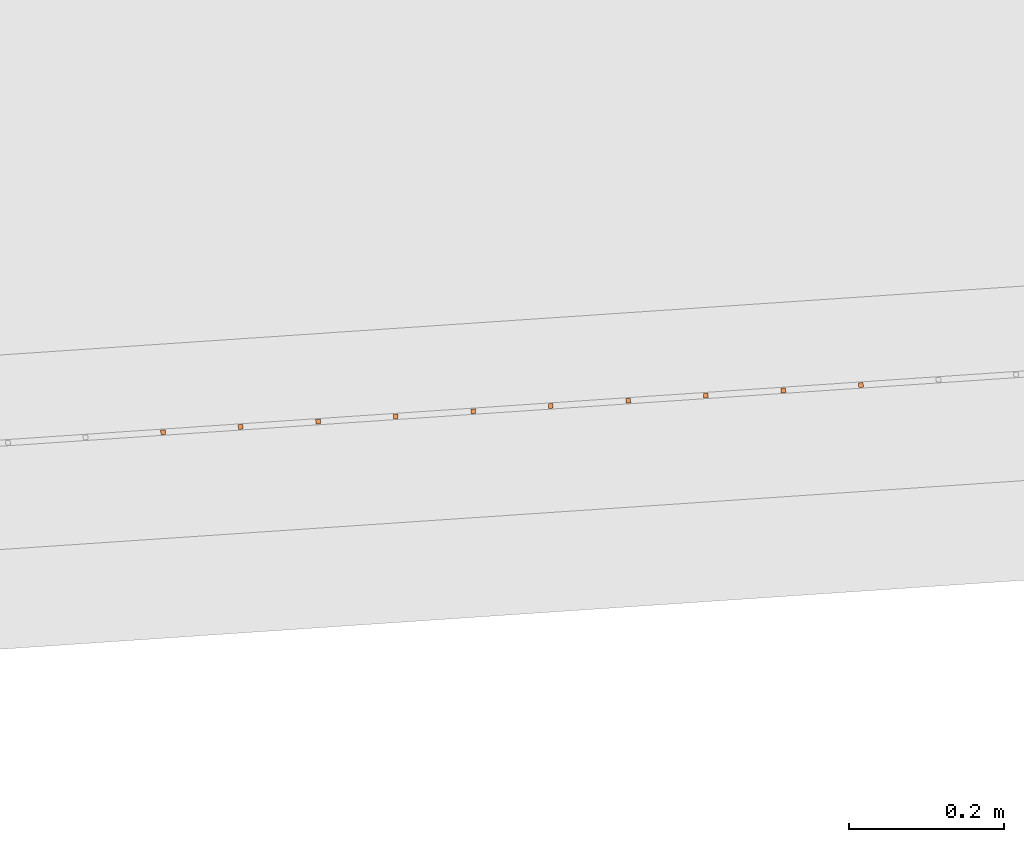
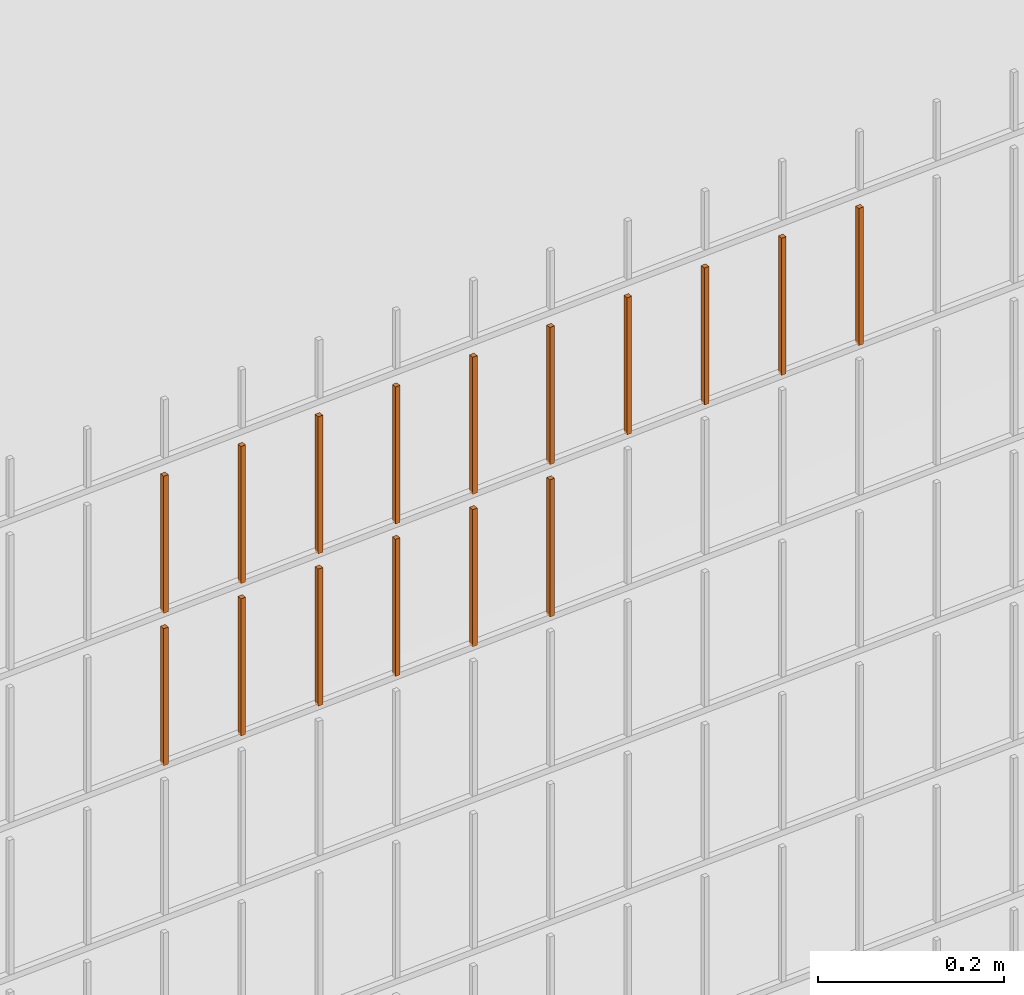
# One storey, part 159 of 1809: 16 proxies, 1 element without a shape of its own.
"""IFC2X3 building model written with IfcOpenShell, lengths in millimetres."""

import ifcopenshell
import ifcopenshell.guid

model = None  # the IFC model being written
_history = None  # IfcOwnerHistory: only IFC2X3 demands one
_inside = {}  # id of a spatial element -> (the spatial element, [elements in it])
_under = {}  # id of a project, library or spatial element -> (it, [spatial elements below it])
_declared = {}  # id of a project -> (the project, [libraries it declares])
_typed = {}  # id of a type object -> (the type object, [elements of that type])
_made_of = {}  # id of a material, layer set ... -> (it, [elements and type objects made of it])


def new_model(schema):
    """Start an empty IFC model of exactly this schema.

    Asked for "IFC4X3", IfcOpenShell would pick the latest addendum, in which some entities
    have other attributes; the version numbers below select the first issue.
    IFC2X3 requires an IfcOwnerHistory on every rooted entity: one is made here for all.
    """
    global model, _history
    if schema == "IFC4X3":
        model = ifcopenshell.file(schema_version=(4, 3, 0, 0))
    else:
        model = ifcopenshell.file(schema=schema)
    _inside.clear()
    _under.clear()
    _declared.clear()
    _typed.clear()
    _made_of.clear()
    _history = None
    if model.schema == "IFC2X3":
        org = make("IfcOrganization", Name="unknown")
        user = make(
            "IfcPersonAndOrganization",
            ThePerson=make("IfcPerson", FamilyName="unknown"),
            TheOrganization=org,
        )
        app = make(
            "IfcApplication",
            ApplicationDeveloper=org,
            Version="unknown",
            ApplicationFullName="unknown",
            ApplicationIdentifier="unknown",
        )
        _history = make(
            "IfcOwnerHistory",
            OwningUser=user,
            OwningApplication=app,
            ChangeAction="ADDED",
            CreationDate=0,
        )
    return model


def make(cls, **values):
    """One entity of the class cls with the attributes given. An attribute that is None is left unset."""
    return model.create_entity(
        cls, **{name: value for name, value in values.items() if value is not None}
    )


def entity(cls, *values):
    """Any entity or typed value of the class cls, its attributes in the order of the schema. None: left unset."""
    e = model.create_entity(cls)
    for i, value in enumerate(values):
        if value is not None:
            e[i] = value
    return e


def rooted(cls, **values):
    """An entity with a GlobalId (a new one), such as an element, a storey or a relation."""
    return make(cls, GlobalId=ifcopenshell.guid.new(), OwnerHistory=_history, **values)


def si_unit(unit_type, name, prefix=None):
    """IfcSIUnit, for example si_unit("LENGTHUNIT", "METRE", prefix="MILLI")."""
    return make("IfcSIUnit", UnitType=unit_type, Prefix=prefix, Name=name)


def converted_unit(unit_type, name, factor, base, dimensions=None, offset=None):
    """IfcConversionBasedUnit, such as the inch: factor (a typed value) times the base unit."""
    return make(
        "IfcConversionBasedUnit"
        if offset is None
        else "IfcConversionBasedUnitWithOffset",
        ConversionOffset=offset,
        Dimensions=None
        if dimensions is None
        else entity("IfcDimensionalExponents", *dimensions),
        UnitType=unit_type,
        Name=name,
        ConversionFactor=make(
            "IfcMeasureWithUnit", ValueComponent=factor, UnitComponent=base
        ),
    )


def derived_unit(unit_type, elements):
    """IfcDerivedUnit: a product of units, each with its exponent."""
    return make(
        "IfcDerivedUnit",
        Elements=[
            make("IfcDerivedUnitElement", Unit=unit, Exponent=power)
            for unit, power in elements
        ],
        UnitType=unit_type,
    )


def money_unit(currency):
    """IfcMonetaryUnit."""
    return make("IfcMonetaryUnit", Currency=currency)


def assignment(units):
    """IfcUnitAssignment: the units of a project."""
    return None if units is None else make("IfcUnitAssignment", Units=units)


def point(xyz):
    """IfcCartesianPoint."""
    return None if xyz is None else make("IfcCartesianPoint", Coordinates=xyz)


def direction(xyz):
    """IfcDirection."""
    return None if xyz is None else make("IfcDirection", DirectionRatios=xyz)


def frame(location, z_axis=None, x_axis=None):
    """IfcAxis2Placement3D, a coordinate frame: its origin and axes. An axis left out is left unset."""
    return make(
        "IfcAxis2Placement3D",
        Location=point(location),
        Axis=direction(z_axis),
        RefDirection=direction(x_axis),
    )


def origin_with_axes():
    """The frame at (0, 0, 0) with the z axis (0, 0, 1) and the x axis (1, 0, 0) written out."""
    return frame((0.0, 0.0, 0.0), z_axis=(0.0, 0.0, 1.0), x_axis=(1.0, 0.0, 0.0))


def place(relative_to, where):
    """IfcLocalPlacement: puts the frame where relative to a parent placement (None: the world)."""
    return make(
        "IfcLocalPlacement", PlacementRelTo=relative_to, RelativePlacement=where
    )


def context(
    kind, dimensions, precision=None, world=None, true_north=None, identifier=None
):
    """IfcGeometricRepresentationContext, for example the 3D "Model" context."""
    return make(
        "IfcGeometricRepresentationContext",
        ContextIdentifier=identifier,
        ContextType=kind,
        CoordinateSpaceDimension=dimensions,
        Precision=precision,
        WorldCoordinateSystem=world,
        TrueNorth=true_north,
    )


def subcontext(parent, identifier, kind, view, scale=None):
    """IfcGeometricRepresentationSubContext, for example "Body" below "Model"."""
    return make(
        "IfcGeometricRepresentationSubContext",
        ContextIdentifier=identifier,
        ContextType=kind,
        ParentContext=parent,
        TargetScale=scale,
        TargetView=view,
    )


def project(units=None, contexts=None):
    """IfcProject with its units and contexts."""
    return rooted(
        "IfcProject",
        Name="project",
        RepresentationContexts=contexts,
        UnitsInContext=assignment(units),
    )


def spatial(cls, under=None, at=None, **own):
    """A site, building, storey or space (cls), placed at a placement, below another one or the project."""
    s = rooted(cls, ObjectPlacement=at, **own)
    if under is not None:
        _under.setdefault(under.id(), (under, []))[1].append(s)
    return s


def faces_of(points, faces, orient=None, outer=None):
    """IfcFace entities. A face is a list of loops; a loop is a list of indices into points, from 0.

    orient and outer hold one flag for each loop. By default every Orientation is true, the
    first loop of a face is its IfcFaceOuterBound and the others are IfcFaceBound.
    """
    made = []
    for i, loops in enumerate(faces):
        bounds = []
        for j, loop in enumerate(loops):
            is_outer = j == 0 if outer is None else outer[i][j]
            bounds.append(
                make(
                    "IfcFaceOuterBound" if is_outer else "IfcFaceBound",
                    Bound=make("IfcPolyLoop", Polygon=[points[k] for k in loop]),
                    Orientation=True if orient is None else orient[i][j],
                )
            )
        made.append(make("IfcFace", Bounds=bounds))
    return made


def faceted_brep(points, faces, orient=None, outer=None, voids=None):
    """IfcFacetedBrep: a solid bounded by flat faces; with voids (closed shells), ...WithVoids."""
    shared = [point(p) for p in points]
    hull = make("IfcClosedShell", CfsFaces=faces_of(shared, faces, orient, outer))
    if voids is None:
        return make("IfcFacetedBrep", Outer=hull)
    return make(
        "IfcFacetedBrepWithVoids",
        Outer=hull,
        Voids=[
            make(cls, CfsFaces=faces_of(shared, fs, o, b)) for cls, fs, o, b in voids
        ],
    )


def shape(context_of_items, identifier, shape_type, items):
    """IfcShapeRepresentation: the items that make up one representation, for example the "Body"."""
    return make(
        "IfcShapeRepresentation",
        ContextOfItems=context_of_items,
        RepresentationIdentifier=identifier,
        RepresentationType=shape_type,
        Items=items,
    )


def source(mapping_origin, context_of_items, identifier, shape_type, items):
    """IfcRepresentationMap: a shape defined once, which mapped items show again and again."""
    return make(
        "IfcRepresentationMap",
        MappingOrigin=mapping_origin,
        MappedRepresentation=shape(context_of_items, identifier, shape_type, items),
    )


def transform(
    local_origin,
    x_axis=None,
    y_axis=None,
    z_axis=None,
    scale=None,
    scale2=None,
    scale3=None,
    uniform=True,
):
    """IfcCartesianTransformationOperator3D, or its non-uniform kind. x_axis, y_axis, z_axis: its Axis1, 2, 3."""
    if uniform:
        return make(
            "IfcCartesianTransformationOperator3D",
            Axis1=direction(x_axis),
            Axis2=direction(y_axis),
            LocalOrigin=point(local_origin),
            Scale=scale,
            Axis3=direction(z_axis),
        )
    return make(
        "IfcCartesianTransformationOperator3DnonUniform",
        Axis1=direction(x_axis),
        Axis2=direction(y_axis),
        LocalOrigin=point(local_origin),
        Scale=scale,
        Axis3=direction(z_axis),
        Scale2=scale2,
        Scale3=scale3,
    )


def mapped(mapping_source, mapping_target):
    """IfcMappedItem: shows the shape of a source again, moved by a transform."""
    return make(
        "IfcMappedItem", MappingSource=mapping_source, MappingTarget=mapping_target
    )


def material(Name=None, Category=None):
    """IfcMaterial."""
    return make("IfcMaterial", Name=Name, Category=Category)


def made_of(thing, what):
    """Note that an element or type object is made of a material, layer set ...; save() writes the relation."""
    if what is not None:
        _made_of.setdefault(what.id(), (what, []))[1].append(thing)
    return thing


def type_object(cls, material=None, **own):
    """A type object (cls), such as IfcWallType, which elements share."""
    return made_of(rooted(cls, **own), material)


def element(
    cls,
    number,
    at=None,
    inside=None,
    cuts=None,
    type_object=None,
    material=None,
    context=None,
    identifier="Body",
    shape_type=None,
    held_by="IfcProductDefinitionShape",
    body=None,
    shapes=None,
    **own,
):
    """One element of the class cls, such as IfcWall. Its Tag is "e" and its number.

    at: its placement. inside: the storey or other place that contains it. cuts: it is an
    opening in that element (IfcRelVoidsElement). A single representation is given by context,
    identifier, shape_type and body (its items); several are given by shapes. held_by: the class
    of the entity that holds the representations. save() writes the other relations.
    """
    e = rooted(cls, Tag="e%d" % number, ObjectPlacement=at, **own)
    if body is not None:
        shapes = [shape(context, identifier, shape_type, body)]
    if shapes is not None:
        e.Representation = make(held_by, Representations=shapes)
    if inside is not None:
        _inside.setdefault(inside.id(), (inside, []))[1].append(e)
    if cuts is not None:
        rooted(
            "IfcRelVoidsElement", RelatingBuildingElement=cuts, RelatedOpeningElement=e
        )
    if type_object is not None:
        _typed.setdefault(type_object.id(), (type_object, []))[1].append(e)
    return made_of(e, material)


def aggregate(whole, parts):
    """IfcRelAggregates: a whole, such as a stair, and the parts it consists of."""
    return rooted("IfcRelAggregates", RelatingObject=whole, RelatedObjects=parts)


def save(model, path):
    """Write the relations noted so far, then the file.

    IfcRelAggregates (storeys below a building ...), IfcRelContainedInSpatialStructure (elements
    in a storey), IfcRelDefinesByType, IfcRelAssociatesMaterial and IfcRelDeclares: one each for
    every whole, place, type object, material and project.
    """
    for whole, parts in _under.values():
        aggregate(whole, parts)
    for where, things in _inside.values():
        rooted(
            "IfcRelContainedInSpatialStructure",
            RelatedElements=things,
            RelatingStructure=where,
        )
    for kind, things in _typed.values():
        rooted("IfcRelDefinesByType", RelatedObjects=things, RelatingType=kind)
    for what, things in _made_of.values():
        rooted("IfcRelAssociatesMaterial", RelatedObjects=things, RelatingMaterial=what)
    for by, libraries in _declared.values():
        rooted("IfcRelDeclares", RelatingContext=by, RelatedDefinitions=libraries)
    model.write(path)


model = new_model("IFC2X3")

# Units and contexts
model_context = context("Model", 3, precision=0.01, world=origin_with_axes(), true_north=direction((0.0, 1.0)))
body_context = subcontext(model_context, "Body", "Model", "MODEL_VIEW")
ifc_project = project(units=[si_unit("LENGTHUNIT", "METRE", prefix="MILLI"), si_unit("AREAUNIT", "SQUARE_METRE"), si_unit("VOLUMEUNIT", "CUBIC_METRE"), converted_unit("PLANEANGLEUNIT", "DEGREE", entity("IfcPlaneAngleMeasure", 0.0174532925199), si_unit("PLANEANGLEUNIT", "RADIAN"), dimensions=[0, 0, 0, 0, 0, 0, 0]), si_unit("SOLIDANGLEUNIT", "STERADIAN"), money_unit("EUR"), converted_unit("TIMEUNIT", "Year", entity("IfcTimeMeasure", 31556926.0), si_unit("TIMEUNIT", "SECOND"), dimensions=[0, 0, 1, 0, 0, 0, 0]), si_unit("MASSUNIT", "GRAM", prefix="KILO"), si_unit("THERMODYNAMICTEMPERATUREUNIT", "DEGREE_CELSIUS"), si_unit("LUMINOUSINTENSITYUNIT", "LUMEN"), si_unit("ENERGYUNIT", "JOULE", prefix="MEGA"), derived_unit("THERMALCONDUCTANCEUNIT", [(si_unit("POWERUNIT", "WATT"), 1), (si_unit("LENGTHUNIT", "METRE"), -1), (si_unit("THERMODYNAMICTEMPERATUREUNIT", "KELVIN"), -1)]), derived_unit("SPECIFICHEATCAPACITYUNIT", [(si_unit("ENERGYUNIT", "JOULE"), 1), (si_unit("MASSUNIT", "GRAM", prefix="KILO"), -1), (si_unit("THERMODYNAMICTEMPERATUREUNIT", "KELVIN"), -1)]), derived_unit("MASSDENSITYUNIT", [(si_unit("MASSUNIT", "GRAM", prefix="KILO"), 1), (si_unit("VOLUMEUNIT", "CUBIC_METRE"), -1)])], contexts=[model_context])

# Site, building, storey
site_placement = place(None, origin_with_axes())
site = spatial("IfcSite", under=ifc_project, at=site_placement, Name="Politse- ja Piirivalveameti ning Päästeameti ühishoone", CompositionType="ELEMENT")
building_placement = place(site_placement, origin_with_axes())
building = spatial("IfcBuilding", under=site, at=building_placement, Name="Politse- ja Piirivalveameti ning Päästeameti ühishoone", CompositionType="ELEMENT")
storey_placement = place(building_placement, origin_with_axes())
storey = spatial("IfcBuildingStorey", under=building, at=storey_placement, Name="Esimene korrus", CompositionType="ELEMENT", Elevation=0.0)

# Proxies
building_element_proxy_type_1 = type_object("IfcBuildingElementProxyType", Name="Railing Type", PredefinedType="NOTDEFINED")
proxy_1_placement = place(storey_placement, frame((89252.001212, -29183.4766571, 203.661247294), z_axis=(0.0, 0.0, 1.0), x_axis=(1.0, 0.0, 0.0)))
proxy_1 = element("IfcBuildingElementProxy", 1, at=proxy_1_placement, inside=storey, type_object=building_element_proxy_type_1, Name="PIIRDEAED")
ifc_material = material(Name="ET-03_Raud")
building_element_proxy_type_2 = type_object("IfcBuildingElementProxyType", Name="IfcBuildingElementProxy", PredefinedType="NOTDEFINED")
shared_shape_1 = source(origin_with_axes(), body_context, "Body", "Brep", [
    faceted_brep([(3.0, 3.0, -0.000752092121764), (-3.0, 3.0, -0.000752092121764), (-3.0, 3.0, 179.99926046), (3.0, 3.0, 179.99926046), (3.0, -3.0, 0.000752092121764), (-3.0, -3.0, 0.000752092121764), (-3.0, -3.0, 180.000764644), (3.0, -3.0, 180.000764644)], [[[0, 1, 2, 3]], [[0, 4, 5, 1]], [[1, 5, 6, 2]], [[3, 2, 6, 7]], [[4, 0, 3, 7]], [[5, 4, 7, 6]]]),
])
proxy_2_placement = place(proxy_1_placement, frame((-81042.0215501, -22771.8574758, 1606.87106814), z_axis=(0.0, 0.0, 1.0), x_axis=(1.0, 0.0, 0.0)))
proxy_2 = element("IfcBuildingElementProxy", 2, at=proxy_2_placement, type_object=building_element_proxy_type_2, material=ifc_material, Name="BALUSTER - 001", context=body_context, shape_type="MappedRepresentation", body=[
    mapped(shared_shape_1, transform((0.0, 0.0, 0.0), x_axis=(-0.0673926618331, 0.997726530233, 0.0), y_axis=(-0.997726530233, -0.0673926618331, 0.0), z_axis=(0.0, 0.0, 1.0))),
])
shared_shape_2 = source(origin_with_axes(), body_context, "Body", "Brep", [
    faceted_brep([(3.0, 3.0, -0.000752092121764), (-3.0, 3.0, -0.000752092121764), (-3.0, 3.0, 179.99926046), (3.0, 3.0, 179.99926046), (3.0, -3.0, 0.000752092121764), (-3.0, -3.0, 0.000752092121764), (-3.0, -3.0, 180.000764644), (3.0, -3.0, 180.000764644)], [[[0, 1, 2, 3]], [[0, 4, 5, 1]], [[1, 5, 6, 2]], [[3, 2, 6, 7]], [[4, 0, 3, 7]], [[5, 4, 7, 6]]]),
])
proxy_3_placement = place(proxy_1_placement, frame((-81141.7942031, -22778.5967419, 1806.84599841), z_axis=(0.0, 0.0, 1.0), x_axis=(1.0, 0.0, 0.0)))
proxy_3 = element("IfcBuildingElementProxy", 3, at=proxy_3_placement, type_object=building_element_proxy_type_2, material=ifc_material, Name="BALUSTER - 001", context=body_context, shape_type="MappedRepresentation", body=[
    mapped(shared_shape_2, transform((0.0, 0.0, 0.0), x_axis=(-0.0673926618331, 0.997726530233, 0.0), y_axis=(-0.997726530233, -0.0673926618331, 0.0), z_axis=(0.0, 0.0, 1.0))),
])
shared_shape_3 = source(origin_with_axes(), body_context, "Body", "Brep", [
    faceted_brep([(3.0, 3.0, -0.000752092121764), (-3.0, 3.0, -0.000752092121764), (-3.0, 3.0, 179.99926046), (3.0, 3.0, 179.99926046), (3.0, -3.0, 0.000752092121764), (-3.0, -3.0, 0.000752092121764), (-3.0, -3.0, 180.000764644), (3.0, -3.0, 180.000764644)], [[[0, 1, 2, 3]], [[0, 4, 5, 1]], [[1, 5, 6, 2]], [[3, 2, 6, 7]], [[4, 0, 3, 7]], [[5, 4, 7, 6]]]),
])
proxy_4_placement = place(proxy_1_placement, frame((-80343.6129789, -22724.6826125, 1807.04655631), z_axis=(0.0, 0.0, 1.0), x_axis=(1.0, 0.0, 0.0)))
proxy_4 = element("IfcBuildingElementProxy", 4, at=proxy_4_placement, type_object=building_element_proxy_type_2, material=ifc_material, Name="BALUSTER - 001", context=body_context, shape_type="MappedRepresentation", body=[
    mapped(shared_shape_3, transform((0.0, 0.0, 0.0), x_axis=(-0.0673926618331, 0.997726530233, 0.0), y_axis=(-0.997726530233, -0.0673926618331, 0.0), z_axis=(0.0, 0.0, 1.0))),
])
proxy_5_placement = place(proxy_1_placement, frame((-81042.0215501, -22771.8574758, 1806.87106814), z_axis=(0.0, 0.0, 1.0), x_axis=(1.0, 0.0, 0.0)))
proxy_5 = element("IfcBuildingElementProxy", 5, at=proxy_5_placement, type_object=building_element_proxy_type_2, material=ifc_material, Name="BALUSTER - 001", context=body_context, shape_type="MappedRepresentation", body=[
    mapped(shared_shape_3, transform((0.0, 0.0, 0.0), x_axis=(-0.0673926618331, 0.997726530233, 0.0), y_axis=(-0.997726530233, -0.0673926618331, 0.0), z_axis=(0.0, 0.0, 1.0))),
])
shared_shape_4 = source(origin_with_axes(), body_context, "Body", "Brep", [
    faceted_brep([(3.0, 3.0, -0.000752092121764), (-3.0, 3.0, -0.000752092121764), (-3.0, 3.0, 179.99926046), (3.0, 3.0, 179.99926046), (3.0, -3.0, 0.000752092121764), (-3.0, -3.0, 0.000752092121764), (-3.0, -3.0, 180.000764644), (3.0, -3.0, 180.000764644)], [[[0, 1, 2, 3]], [[0, 4, 5, 1]], [[1, 5, 6, 2]], [[3, 2, 6, 7]], [[4, 0, 3, 7]], [[5, 4, 7, 6]]]),
])
proxy_6_placement = place(proxy_1_placement, frame((-80443.385632, -22731.4218787, 1807.02148657), z_axis=(0.0, 0.0, 1.0), x_axis=(1.0, 0.0, 0.0)))
proxy_6 = element("IfcBuildingElementProxy", 6, at=proxy_6_placement, type_object=building_element_proxy_type_2, material=ifc_material, Name="BALUSTER - 001", context=body_context, shape_type="MappedRepresentation", body=[
    mapped(shared_shape_4, transform((0.0, 0.0, 0.0), x_axis=(-0.0673926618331, 0.997726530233, 0.0), y_axis=(-0.997726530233, -0.0673926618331, 0.0), z_axis=(0.0, 0.0, 1.0))),
])
proxy_7_placement = place(proxy_1_placement, frame((-80642.930938, -22744.900411, 1806.97134709), z_axis=(0.0, 0.0, 1.0), x_axis=(1.0, 0.0, 0.0)))
proxy_7 = element("IfcBuildingElementProxy", 7, at=proxy_7_placement, type_object=building_element_proxy_type_2, material=ifc_material, Name="BALUSTER - 001", context=body_context, shape_type="MappedRepresentation", body=[
    mapped(shared_shape_4, transform((0.0, 0.0, 0.0), x_axis=(-0.0673926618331, 0.997726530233, 0.0), y_axis=(-0.997726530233, -0.0673926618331, 0.0), z_axis=(0.0, 0.0, 1.0))),
])
shared_shape_5 = source(origin_with_axes(), body_context, "Body", "Brep", [
    faceted_brep([(3.0, 3.0, -0.000752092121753), (-3.0, 3.0, -0.000752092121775), (-3.0, 3.0, 179.99926046), (3.0, 3.0, 179.99926046), (3.0, -3.0, 0.000752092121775), (-3.0, -3.0, 0.000752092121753), (-3.0, -3.0, 180.000764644), (3.0, -3.0, 180.000764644)], [[[0, 1, 2, 3]], [[0, 4, 5, 1]], [[1, 5, 6, 2]], [[3, 2, 6, 7]], [[4, 0, 3, 7]], [[5, 4, 7, 6]]]),
])
proxy_8_placement = place(proxy_1_placement, frame((-80543.158285, -22738.1611448, 1806.99641683), z_axis=(0.0, 0.0, 1.0), x_axis=(1.0, 0.0, 0.0)))
proxy_8 = element("IfcBuildingElementProxy", 8, at=proxy_8_placement, type_object=building_element_proxy_type_2, material=ifc_material, Name="BALUSTER - 001", context=body_context, shape_type="MappedRepresentation", body=[
    mapped(shared_shape_5, transform((0.0, 0.0, 0.0), x_axis=(-0.0673926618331, 0.997726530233, 0.0), y_axis=(-0.997726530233, -0.0673926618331, 0.0), z_axis=(0.0, 0.0, 1.0))),
])
shared_shape_6 = source(origin_with_axes(), body_context, "Body", "Brep", [
    faceted_brep([(3.0, 3.0, -0.000752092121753), (-3.0, 3.0, -0.000752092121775), (-3.0, 3.0, 179.99926046), (3.0, 3.0, 179.99926046), (3.0, -3.0, 0.000752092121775), (-3.0, -3.0, 0.000752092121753), (-3.0, -3.0, 180.000764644), (3.0, -3.0, 180.000764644)], [[[0, 1, 2, 3]], [[0, 4, 5, 1]], [[1, 5, 6, 2]], [[3, 2, 6, 7]], [[4, 0, 3, 7]], [[5, 4, 7, 6]]]),
])
proxy_9_placement = place(proxy_1_placement, frame((-80243.8403259, -22717.9433463, 1807.07162604), z_axis=(0.0, 0.0, 1.0), x_axis=(1.0, 0.0, 0.0)))
proxy_9 = element("IfcBuildingElementProxy", 9, at=proxy_9_placement, type_object=building_element_proxy_type_2, material=ifc_material, Name="BALUSTER - 001", context=body_context, shape_type="MappedRepresentation", body=[
    mapped(shared_shape_6, transform((0.0, 0.0, 0.0), x_axis=(-0.0673926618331, 0.997726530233, 0.0), y_axis=(-0.997726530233, -0.0673926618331, 0.0), z_axis=(0.0, 0.0, 1.0))),
])
proxy_10_placement = place(proxy_1_placement, frame((-80842.4762441, -22758.3789434, 1806.92120762), z_axis=(0.0, 0.0, 1.0), x_axis=(1.0, 0.0, 0.0)))
proxy_10 = element("IfcBuildingElementProxy", 10, at=proxy_10_placement, type_object=building_element_proxy_type_2, material=ifc_material, Name="BALUSTER - 001", context=body_context, shape_type="MappedRepresentation", body=[
    mapped(shared_shape_6, transform((0.0, 0.0, 0.0), x_axis=(-0.0673926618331, 0.997726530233, 0.0), y_axis=(-0.997726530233, -0.0673926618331, 0.0), z_axis=(0.0, 0.0, 1.0))),
])
shared_shape_7 = source(origin_with_axes(), body_context, "Body", "Brep", [
    faceted_brep([(3.0, 3.0, -0.000752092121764), (-3.0, 3.0, -0.000752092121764), (-3.0, 3.0, 179.99926046), (3.0, 3.0, 179.99926046), (3.0, -3.0, 0.000752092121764), (-3.0, -3.0, 0.000752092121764), (-3.0, -3.0, 180.000764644), (3.0, -3.0, 180.000764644)], [[[0, 1, 2, 3]], [[0, 4, 5, 1]], [[1, 5, 6, 2]], [[3, 2, 6, 7]], [[4, 0, 3, 7]], [[5, 4, 7, 6]]]),
])
proxy_11_placement = place(proxy_1_placement, frame((-81141.7942031, -22778.5967419, 1606.84599841), z_axis=(0.0, 0.0, 1.0), x_axis=(1.0, 0.0, 0.0)))
proxy_11 = element("IfcBuildingElementProxy", 11, at=proxy_11_placement, type_object=building_element_proxy_type_2, material=ifc_material, Name="BALUSTER - 001", context=body_context, shape_type="MappedRepresentation", body=[
    mapped(shared_shape_7, transform((0.0, 0.0, 0.0), x_axis=(-0.0673926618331, 0.997726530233, 0.0), y_axis=(-0.997726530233, -0.0673926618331, 0.0), z_axis=(0.0, 0.0, 1.0))),
])
shared_shape_8 = source(origin_with_axes(), body_context, "Body", "Brep", [
    faceted_brep([(3.0, 3.0, -0.000752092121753), (-3.0, 3.0, -0.000752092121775), (-3.0, 3.0, 179.99926046), (3.0, 3.0, 179.99926046), (3.0, -3.0, 0.000752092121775), (-3.0, -3.0, 0.000752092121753), (-3.0, -3.0, 180.000764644), (3.0, -3.0, 180.000764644)], [[[0, 1, 2, 3]], [[0, 4, 5, 1]], [[1, 5, 6, 2]], [[3, 2, 6, 7]], [[4, 0, 3, 7]], [[5, 4, 7, 6]]]),
])
proxy_12_placement = place(proxy_1_placement, frame((-80742.703591, -22751.6396772, 1606.94627736), z_axis=(0.0, 0.0, 1.0), x_axis=(1.0, 0.0, 0.0)))
proxy_12 = element("IfcBuildingElementProxy", 12, at=proxy_12_placement, type_object=building_element_proxy_type_2, material=ifc_material, Name="BALUSTER - 001", context=body_context, shape_type="MappedRepresentation", body=[
    mapped(shared_shape_8, transform((0.0, 0.0, 0.0), x_axis=(-0.0673926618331, 0.997726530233, 0.0), y_axis=(-0.997726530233, -0.0673926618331, 0.0), z_axis=(0.0, 0.0, 1.0))),
])
shared_shape_9 = source(origin_with_axes(), body_context, "Body", "Brep", [
    faceted_brep([(3.0, 3.0, -0.000752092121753), (-3.0, 3.0, -0.000752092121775), (-3.0, 3.0, 179.99926046), (3.0, 3.0, 179.99926046), (3.0, -3.0, 0.000752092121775), (-3.0, -3.0, 0.000752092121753), (-3.0, -3.0, 180.000764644), (3.0, -3.0, 180.000764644)], [[[0, 1, 2, 3]], [[0, 4, 5, 1]], [[1, 5, 6, 2]], [[3, 2, 6, 7]], [[4, 0, 3, 7]], [[5, 4, 7, 6]]]),
])
proxy_13_placement = place(proxy_1_placement, frame((-80742.703591, -22751.6396772, 1806.94627736), z_axis=(0.0, 0.0, 1.0), x_axis=(1.0, 0.0, 0.0)))
proxy_13 = element("IfcBuildingElementProxy", 13, at=proxy_13_placement, type_object=building_element_proxy_type_2, material=ifc_material, Name="BALUSTER - 001", context=body_context, shape_type="MappedRepresentation", body=[
    mapped(shared_shape_9, transform((0.0, 0.0, 0.0), x_axis=(-0.0673926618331, 0.997726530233, 0.0), y_axis=(-0.997726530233, -0.0673926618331, 0.0), z_axis=(0.0, 0.0, 1.0))),
])
shared_shape_10 = source(origin_with_axes(), body_context, "Body", "Brep", [
    faceted_brep([(3.0, 3.0, -0.000752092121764), (-3.0, 3.0, -0.000752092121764), (-3.0, 3.0, 179.99926046), (3.0, 3.0, 179.99926046), (3.0, -3.0, 0.000752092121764), (-3.0, -3.0, 0.000752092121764), (-3.0, -3.0, 180.000764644), (3.0, -3.0, 180.000764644)], [[[0, 1, 2, 3]], [[0, 4, 5, 1]], [[1, 5, 6, 2]], [[3, 2, 6, 7]], [[4, 0, 3, 7]], [[5, 4, 7, 6]]]),
])
proxy_14_placement = place(proxy_1_placement, frame((-80642.930938, -22744.900411, 1606.97134709), z_axis=(0.0, 0.0, 1.0), x_axis=(1.0, 0.0, 0.0)))
proxy_14 = element("IfcBuildingElementProxy", 14, at=proxy_14_placement, type_object=building_element_proxy_type_2, material=ifc_material, Name="BALUSTER - 001", context=body_context, shape_type="MappedRepresentation", body=[
    mapped(shared_shape_10, transform((0.0, 0.0, 0.0), x_axis=(-0.0673926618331, 0.997726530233, 0.0), y_axis=(-0.997726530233, -0.0673926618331, 0.0), z_axis=(0.0, 0.0, 1.0))),
])
shared_shape_11 = source(origin_with_axes(), body_context, "Body", "Brep", [
    faceted_brep([(3.0, 3.0, -0.000752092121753), (-3.0, 3.0, -0.000752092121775), (-3.0, 3.0, 179.99926046), (3.0, 3.0, 179.99926046), (3.0, -3.0, 0.000752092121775), (-3.0, -3.0, 0.000752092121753), (-3.0, -3.0, 180.000764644), (3.0, -3.0, 180.000764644)], [[[0, 1, 2, 3]], [[0, 4, 5, 1]], [[1, 5, 6, 2]], [[3, 2, 6, 7]], [[4, 0, 3, 7]], [[5, 4, 7, 6]]]),
])
proxy_15_placement = place(proxy_1_placement, frame((-80842.4762441, -22758.3789434, 1606.92120762), z_axis=(0.0, 0.0, 1.0), x_axis=(1.0, 0.0, 0.0)))
proxy_15 = element("IfcBuildingElementProxy", 15, at=proxy_15_placement, type_object=building_element_proxy_type_2, material=ifc_material, Name="BALUSTER - 001", context=body_context, shape_type="MappedRepresentation", body=[
    mapped(shared_shape_11, transform((0.0, 0.0, 0.0), x_axis=(-0.0673926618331, 0.997726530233, 0.0), y_axis=(-0.997726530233, -0.0673926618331, 0.0), z_axis=(0.0, 0.0, 1.0))),
])
shared_shape_12 = source(origin_with_axes(), body_context, "Body", "Brep", [
    faceted_brep([(3.0, 3.0, -0.000752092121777), (-3.0, 3.0, -0.000752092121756), (-3.0, 3.0, 179.99926046), (3.0, 3.0, 179.99926046), (3.0, -3.0, 0.000752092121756), (-3.0, -3.0, 0.000752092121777), (-3.0, -3.0, 180.000764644), (3.0, -3.0, 180.000764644)], [[[0, 1, 2, 3]], [[0, 4, 5, 1]], [[1, 5, 6, 2]], [[3, 2, 6, 7]], [[4, 0, 3, 7]], [[5, 4, 7, 6]]]),
])
proxy_16_placement = place(proxy_1_placement, frame((-80942.2488971, -22765.1182096, 1806.89613788), z_axis=(0.0, 0.0, 1.0), x_axis=(1.0, 0.0, 0.0)))
proxy_16 = element("IfcBuildingElementProxy", 16, at=proxy_16_placement, type_object=building_element_proxy_type_2, material=ifc_material, Name="BALUSTER - 001", context=body_context, shape_type="MappedRepresentation", body=[
    mapped(shared_shape_12, transform((0.0, 0.0, 0.0), x_axis=(-0.0673926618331, 0.997726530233, 0.0), y_axis=(-0.997726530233, -0.0673926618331, 0.0), z_axis=(0.0, 0.0, 1.0))),
])
shared_shape_13 = source(origin_with_axes(), body_context, "Body", "Brep", [
    faceted_brep([(3.0, 3.0, -0.000752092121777), (-3.0, 3.0, -0.000752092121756), (-3.0, 3.0, 179.99926046), (3.0, 3.0, 179.99926046), (3.0, -3.0, 0.000752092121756), (-3.0, -3.0, 0.000752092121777), (-3.0, -3.0, 180.000764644), (3.0, -3.0, 180.000764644)], [[[0, 1, 2, 3]], [[0, 4, 5, 1]], [[1, 5, 6, 2]], [[3, 2, 6, 7]], [[4, 0, 3, 7]], [[5, 4, 7, 6]]]),
])
proxy_17_placement = place(proxy_1_placement, frame((-80942.2488971, -22765.1182096, 1606.89613788), z_axis=(0.0, 0.0, 1.0), x_axis=(1.0, 0.0, 0.0)))
proxy_17 = element("IfcBuildingElementProxy", 17, at=proxy_17_placement, type_object=building_element_proxy_type_2, material=ifc_material, Name="BALUSTER - 001", context=body_context, shape_type="MappedRepresentation", body=[
    mapped(shared_shape_13, transform((0.0, 0.0, 0.0), x_axis=(-0.0673926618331, 0.997726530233, 0.0), y_axis=(-0.997726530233, -0.0673926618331, 0.0), z_axis=(0.0, 0.0, 1.0))),
])
aggregate(proxy_1, [proxy_14, proxy_12, proxy_15, proxy_17, proxy_2, proxy_11, proxy_9, proxy_4, proxy_6, proxy_8, proxy_7, proxy_13, proxy_10, proxy_16, proxy_5, proxy_3])

save(model, "model.ifc")
